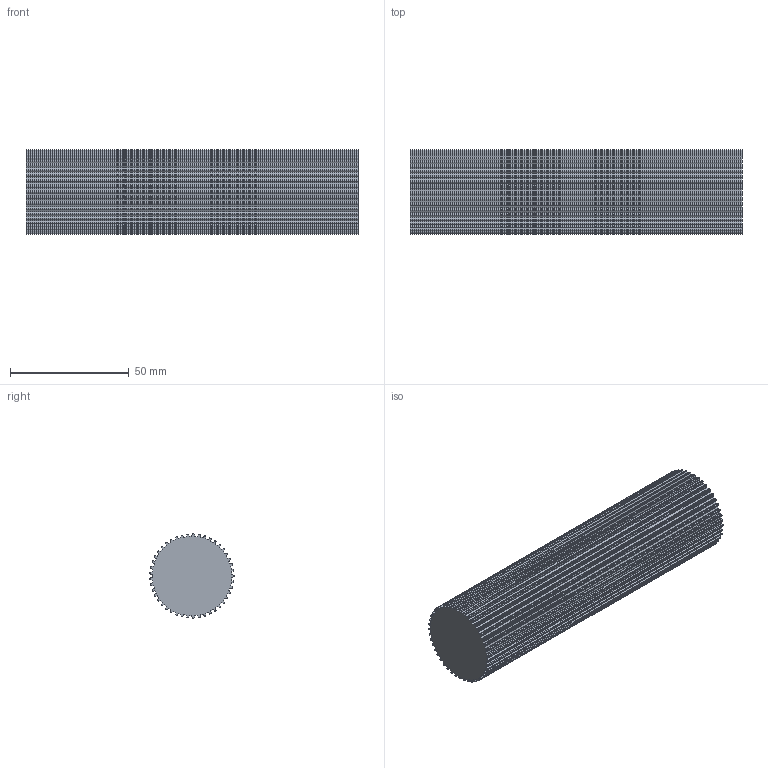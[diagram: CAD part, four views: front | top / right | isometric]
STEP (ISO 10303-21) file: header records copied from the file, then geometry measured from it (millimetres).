
FILE_DESCRIPTION( ( 'STEP AP214' ), '1' );
FILE_NAME( 'C:/Users/StangenbergN/Documents/CAD_Step/1/16094500.stp', '2019-07-25T19:42:24', ( '' ), ( '' ), ' ', 'PARTsolutions', ' ' );
FILE_SCHEMA( ( 'AUTOMOTIVE_DESIGN { 1 0 10303 214 1 1 1 1 }' ) );
Length unit declared in the file: millimetre
Products named in the file (1): _16094500
Bounding box: 140 x 35.47 x 35.49 mm (x, y, z)
Volume: 129323.5 mm3; surface area: 24835.1 mm2
Topology: 1 solids, 1 shells, 362 faces, 1080 edges, 720 vertices
Faces by surface type: cylinder 225, plane 137
Entity records: 15266 total; most frequent: DIRECTION 2256, CARTESIAN_POINT 2163, ORIENTED_EDGE 2160, EDGE_CURVE 1080, AXIS2_PLACEMENT_3D 813, VERTEX_POINT 720, LINE 630, VECTOR 630
